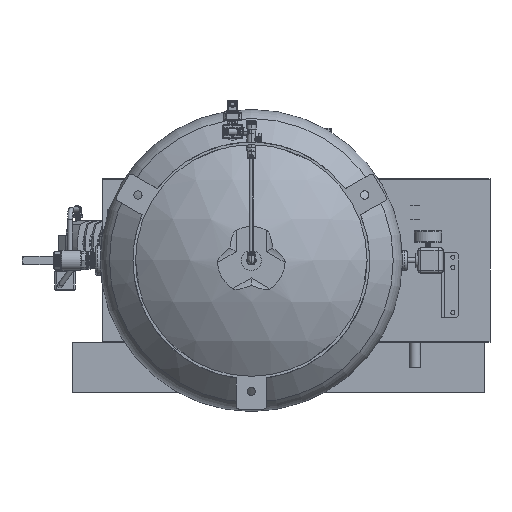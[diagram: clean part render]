
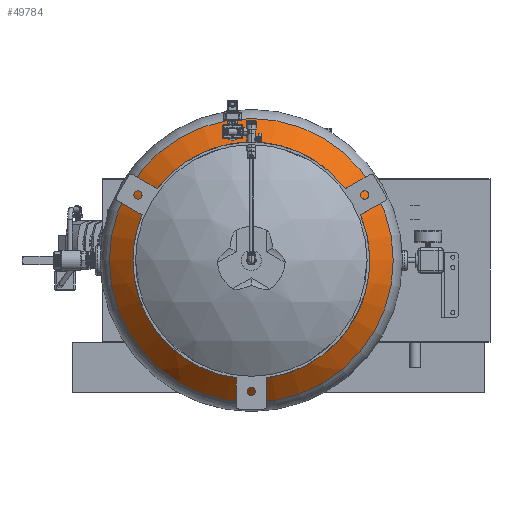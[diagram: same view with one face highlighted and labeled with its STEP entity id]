
A CAD part, front view. The second image highlights one B-rep face of the part: STEP entity #49784.
In plain terms, the highlighted spherical face has radius 482.998 mm.
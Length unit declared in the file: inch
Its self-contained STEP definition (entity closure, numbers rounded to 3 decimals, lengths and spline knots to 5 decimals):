
#2181=SPHERICAL_SURFACE('',#53168,19.01569);
#2639=FACE_BOUND('',#8835,.T.);
#5805=FACE_OUTER_BOUND('',#8834,.T.);
#8834=EDGE_LOOP('',(#41166,#41167));
#8835=EDGE_LOOP('',(#41168));
#18475=CIRCLE('',#53169,14.09415);
#18476=CIRCLE('',#53170,14.09415);
#18477=CIRCLE('',#53171,11.75);
#22706=VERTEX_POINT('',#188006);
#22707=VERTEX_POINT('',#188007);
#22708=VERTEX_POINT('',#188010);
#29085=EDGE_CURVE('',#22706,#22707,#18475,.T.);
#29086=EDGE_CURVE('',#22707,#22706,#18476,.T.);
#29087=EDGE_CURVE('',#22708,#22708,#18477,.T.);
#41166=ORIENTED_EDGE('',*,*,#29085,.T.);
#41167=ORIENTED_EDGE('',*,*,#29086,.T.);
#41168=ORIENTED_EDGE('',*,*,#29087,.T.);
#49784=ADVANCED_FACE('',(#5805,#2639),#2181,.T.);
#53168=AXIS2_PLACEMENT_3D('',#188005,#62814,#62815);
#53169=AXIS2_PLACEMENT_3D('',#188008,#62816,#62817);
#53170=AXIS2_PLACEMENT_3D('',#188009,#62818,#62819);
#53171=AXIS2_PLACEMENT_3D('',#188011,#62820,#62821);
#62814=DIRECTION('center_axis',(0.,0.,1.));
#62815=DIRECTION('ref_axis',(1.,0.,0.));
#62816=DIRECTION('center_axis',(0.,-1.,0.));
#62817=DIRECTION('ref_axis',(1.,0.,0.));
#62818=DIRECTION('center_axis',(0.,-1.,0.));
#62819=DIRECTION('ref_axis',(1.,0.,0.));
#62820=DIRECTION('center_axis',(0.,1.,0.));
#62821=DIRECTION('ref_axis',(1.,0.,0.));
#188005=CARTESIAN_POINT('Origin',(0.,-5.58431,
0.));
#188006=CARTESIAN_POINT('',(14.09415,-18.34955,0.));
#188007=CARTESIAN_POINT('',(0.,-18.34955,14.09415));
#188008=CARTESIAN_POINT('Origin',(0.,-18.34955,
0.));
#188009=CARTESIAN_POINT('Origin',(0.,-18.34955,
0.));
#188010=CARTESIAN_POINT('',(-11.75,-20.53536,0.));
#188011=CARTESIAN_POINT('Origin',(0.,-20.53536,0.));
